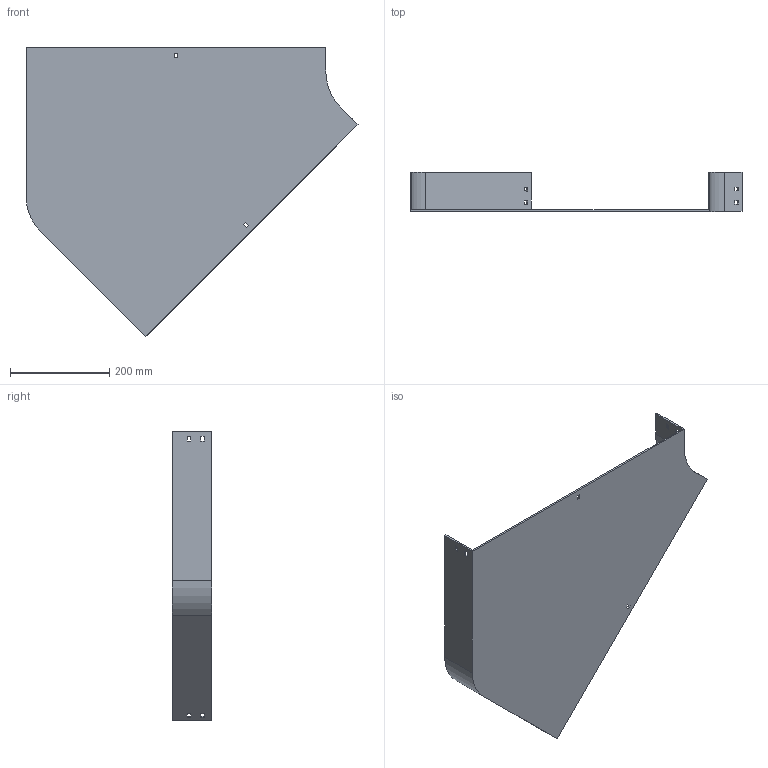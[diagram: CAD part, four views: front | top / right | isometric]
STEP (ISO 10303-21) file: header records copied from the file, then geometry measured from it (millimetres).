
FILE_DESCRIPTION (( 'STEP AP214' ), '1' );
FILE_NAME ('11B1C600.step', '2025-02-21T09:38:55', ( '' ), ( '' ), 'SwSTEP 2.0', 'SolidWorks 2023', '' );
FILE_SCHEMA (( 'AUTOMOTIVE_DESIGN' ));
Length unit declared in the file: millimetre
Products named in the file (1): 11B1C600
Bounding box: 668.64 x 79 x 583.16 mm (x, y, z)
Volume: 1139632.1 mm3; surface area: 660673.4 mm2
Topology: 1 solids, 1 shells, 58 faces, 168 edges, 112 vertices
Faces by surface type: plane 54, cylinder 4
Entity records: 1943 total; most frequent: CARTESIAN_POINT 339, ORIENTED_EDGE 336, DIRECTION 294, EDGE_CURVE 168, VECTOR 160, LINE 160, VERTEX_POINT 112, EDGE_LOOP 78
